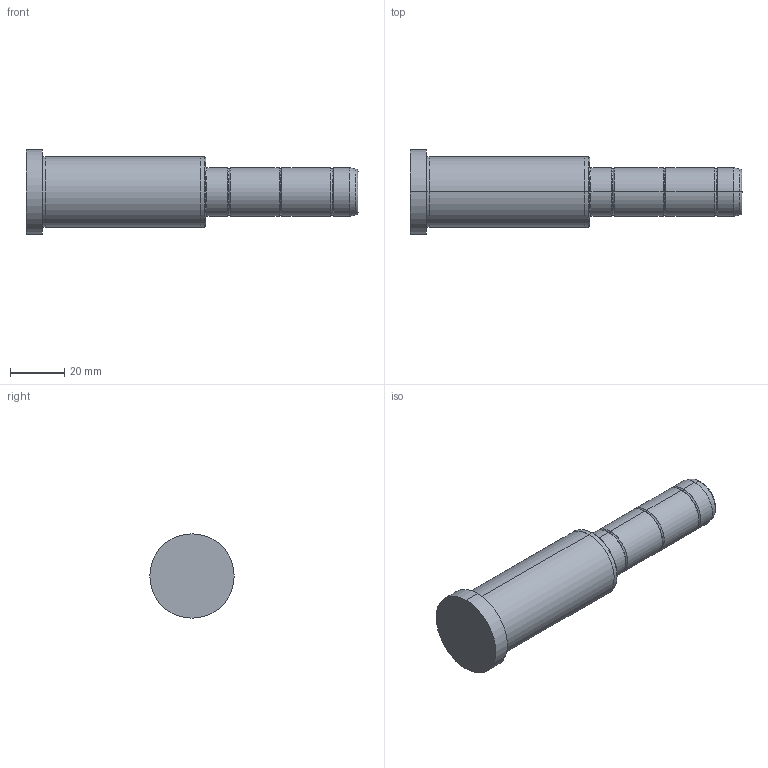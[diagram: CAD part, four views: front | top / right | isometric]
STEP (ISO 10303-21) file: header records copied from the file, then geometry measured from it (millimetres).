
FILE_DESCRIPTION( ( 'STEP AP203' ), '1' );
FILE_NAME( 'C:/Projects/D02 - 18x66x56.step', '2003-01-04T13:29:12', ( ' ' ), ( ' ' ), 'XStep 1.0', ' ', ' ' );
FILE_SCHEMA( ( 'CONFIG_CONTROL_DESIGN' ) );
Length unit declared in the file: metre
Products named in the file (1): 1
Bounding box: 122 x 31 x 31 mm (x, y, z)
Volume: 50537.3 mm3; surface area: 10160.6 mm2
Topology: 1 solids, 1 shells, 42 faces, 82 edges, 46 vertices
Faces by surface type: bspline 22, revolution 20
Entity records: 1325 total; most frequent: CARTESIAN_POINT 517, ORIENTED_EDGE 164, DIRECTION 134, EDGE_CURVE 82, AXIS2_PLACEMENT_3D 47, EDGE_LOOP 46, VERTEX_POINT 46, CIRCLE 46
